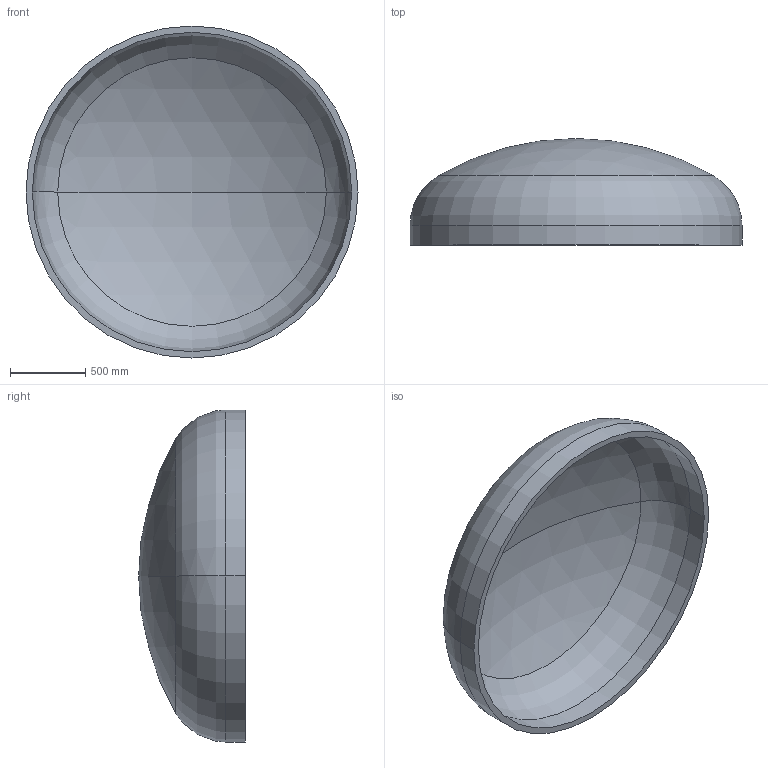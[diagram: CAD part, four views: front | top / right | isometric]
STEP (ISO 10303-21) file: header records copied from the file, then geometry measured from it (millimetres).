
FILE_DESCRIPTION (( 'STEP AP203' ), '1' );
FILE_NAME ('DIN 28013 Korbbogenform_-_Boden DIN 28013 - 2200 x 130 - I - s=42.step', '2016-07-01T14:36:09', ( '' ), ( '' ), 'SwSTEP 2.0', 'SolidWorks 2013', '' );
FILE_SCHEMA (( 'CONFIG_CONTROL_DESIGN' ));
Length unit declared in the file: millimetre
Products named in the file (1): DIN 28013 Korbbogenform_-_Boden DIN 28013 - 2200 x 130 - I - s=42
Bounding box: 2200 x 706.9 x 2200 mm (x, y, z)
Volume: 252797131 mm3; surface area: 12326390.7 mm2
Topology: 1 solids, 1 shells, 13 faces, 24 edges, 14 vertices
Faces by surface type: torus 4, cylinder 4, sphere 4, plane 1
Entity records: 407 total; most frequent: DIRECTION 72, CARTESIAN_POINT 52, ORIENTED_EDGE 48, AXIS2_PLACEMENT_3D 34, EDGE_CURVE 24, CIRCLE 20, EDGE_LOOP 14, VERTEX_POINT 14
